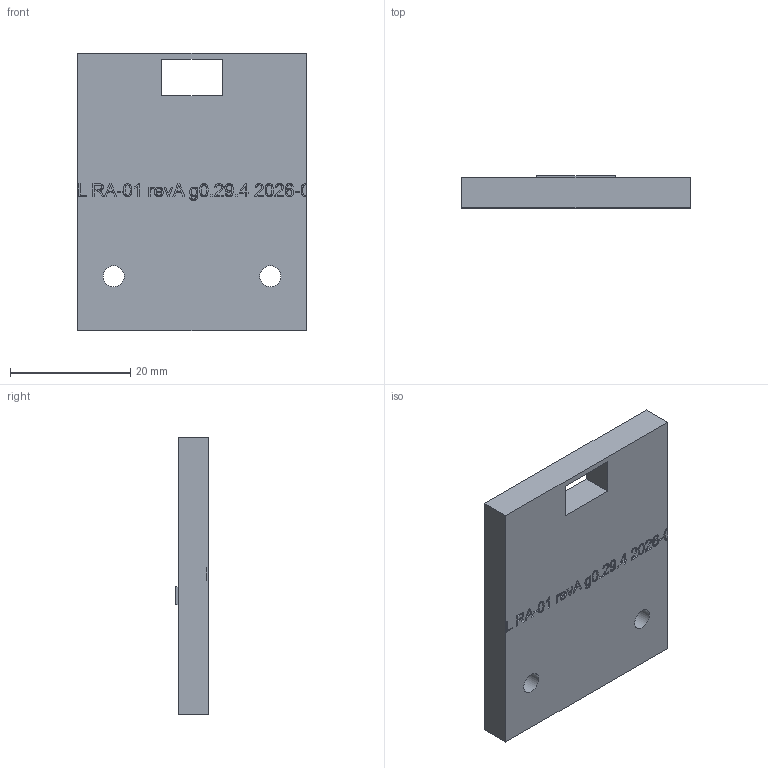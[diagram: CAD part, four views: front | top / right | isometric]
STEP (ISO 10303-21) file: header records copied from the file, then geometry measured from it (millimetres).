
FILE_DESCRIPTION(('Open CASCADE Model'),'2;1');
FILE_NAME('Open CASCADE Shape Model','2026-07-23T16:04:21',('Author'),( 'Open CASCADE'),'Open CASCADE STEP processor 7.9','build123d', 'Unknown');
FILE_SCHEMA(('AUTOMOTIVE_DESIGN { 1 0 10303 214 1 1 1 1 }'));
Length unit declared in the file: millimetre
Products named in the file (2): =>[0:1:1:2]; COMPOUND
Assembly tree (1 placements, depth 2):
  =>[0:1:1:2]
    COMPOUND
Bounding box: 38 x 5.4 x 46 mm (x, y, z)
Volume: 8352.5 mm3; surface area: 4516.2 mm2
Topology: 1 solids, 1 shells, 418 faces, 1146 edges, 764 vertices
Faces by surface type: extrusion 258, plane 158, cylinder 2
Full cylindrical faces by diameter (mm): 3.5 x2
Entity records: 32353 total; most frequent: CARTESIAN_POINT 12151, DIRECTION 2482, ORIENTED_EDGE 2292, PCURVE 2292, DEFINITIONAL_REPRESENTATION 2292, VECTOR 2150, LINE 1892, B_SPLINE_CURVE_WITH_KNOTS 1796
